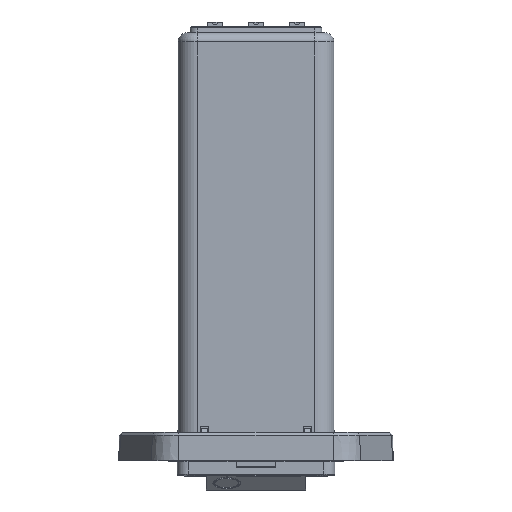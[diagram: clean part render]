
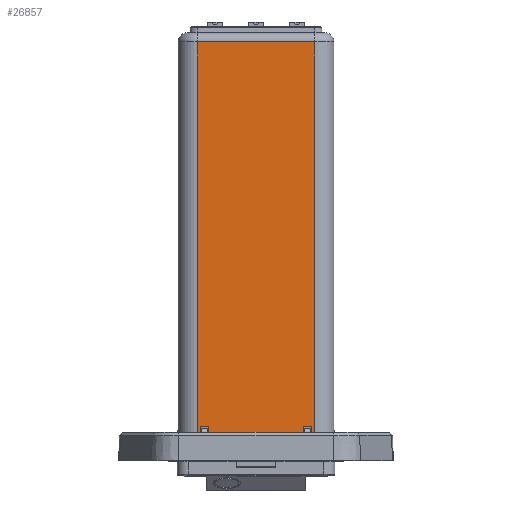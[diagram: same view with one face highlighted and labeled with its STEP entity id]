
A CAD part, top view. The second image highlights one B-rep face of the part: STEP entity #26857.
In plain terms, the highlighted planar face has unit normal (0, 0, 1).
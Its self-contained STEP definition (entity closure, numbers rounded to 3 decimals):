
#26699=CARTESIAN_POINT('',(10.7,76.3,23.1));
#26700=VERTEX_POINT('',#26699);
#26701=CARTESIAN_POINT('',(10.7,3.4,23.1));
#26702=VERTEX_POINT('',#26701);
#26703=CARTESIAN_POINT('',(10.7,76.3,23.1));
#26704=DIRECTION('',(0.0,-1.0,0.0));
#26705=VECTOR('',#26704,72.9);
#26706=LINE('',#26703,#26705);
#26707=EDGE_CURVE('',#26700,#26702,#26706,.T.);
#26727=CARTESIAN_POINT('',(10.7,53.,23.1));
#26728=DIRECTION('',(0.0,0.0,1.0));
#26729=DIRECTION('',(1.0,0.0,0.0));
#26730=AXIS2_PLACEMENT_3D('',#26727,#26728,#26729);
#26731=PLANE('',#26730);
#26732=CARTESIAN_POINT('',(-8.6,3.4,23.1));
#26733=VERTEX_POINT('',#26732);
#26734=CARTESIAN_POINT('',(-8.6,6.,23.1));
#26735=VERTEX_POINT('',#26734);
#26736=CARTESIAN_POINT('',(-8.6,3.4,23.1));
#26737=DIRECTION('',(0.0,1.0,0.0));
#26738=VECTOR('',#26737,2.6);
#26739=LINE('',#26736,#26738);
#26740=EDGE_CURVE('',#26733,#26735,#26739,.T.);
#26741=ORIENTED_EDGE('',*,*,#26740,.F.);
#26742=CARTESIAN_POINT('',(8.6,3.4,23.1));
#26743=VERTEX_POINT('',#26742);
#26744=CARTESIAN_POINT('',(-8.6,3.4,23.1));
#26745=DIRECTION('',(1.0,0.0,0.0));
#26746=VECTOR('',#26745,17.2);
#26747=LINE('',#26744,#26746);
#26748=EDGE_CURVE('',#26733,#26743,#26747,.T.);
#26749=ORIENTED_EDGE('',*,*,#26748,.T.);
#26750=CARTESIAN_POINT('',(8.6,6.,23.1));
#26751=VERTEX_POINT('',#26750);
#26752=CARTESIAN_POINT('',(8.6,6.,23.1));
#26753=DIRECTION('',(0.0,-1.0,0.0));
#26754=VECTOR('',#26753,2.6);
#26755=LINE('',#26752,#26754);
#26756=EDGE_CURVE('',#26751,#26743,#26755,.T.);
#26757=ORIENTED_EDGE('',*,*,#26756,.F.);
#26758=CARTESIAN_POINT('',(8.8,6.2,23.1));
#26759=VERTEX_POINT('',#26758);
#26760=CARTESIAN_POINT('',(8.8,6.,23.1));
#26761=DIRECTION('',(0.0,0.0,1.0));
#26762=DIRECTION('',(1.0,0.0,0.0));
#26763=AXIS2_PLACEMENT_3D('',#26760,#26761,#26762);
#26764=CIRCLE('',#26763,0.2);
#26765=EDGE_CURVE('',#26759,#26751,#26764,.T.);
#26766=ORIENTED_EDGE('',*,*,#26765,.F.);
#26767=CARTESIAN_POINT('',(10.,6.2,23.1));
#26768=VERTEX_POINT('',#26767);
#26769=CARTESIAN_POINT('',(8.8,6.2,23.1));
#26770=DIRECTION('',(1.0,0.0,0.0));
#26771=VECTOR('',#26770,1.2);
#26772=LINE('',#26769,#26771);
#26773=EDGE_CURVE('',#26759,#26768,#26772,.T.);
#26774=ORIENTED_EDGE('',*,*,#26773,.T.);
#26775=CARTESIAN_POINT('',(10.2,6.,23.1));
#26776=VERTEX_POINT('',#26775);
#26777=CARTESIAN_POINT('',(10.,6.,23.1));
#26778=DIRECTION('',(0.0,0.0,1.0));
#26779=DIRECTION('',(1.0,0.0,0.0));
#26780=AXIS2_PLACEMENT_3D('',#26777,#26778,#26779);
#26781=CIRCLE('',#26780,0.2);
#26782=EDGE_CURVE('',#26776,#26768,#26781,.T.);
#26783=ORIENTED_EDGE('',*,*,#26782,.F.);
#26784=CARTESIAN_POINT('',(10.2,3.4,23.1));
#26785=VERTEX_POINT('',#26784);
#26786=CARTESIAN_POINT('',(10.2,3.4,23.1));
#26787=DIRECTION('',(0.0,1.0,0.0));
#26788=VECTOR('',#26787,2.6);
#26789=LINE('',#26786,#26788);
#26790=EDGE_CURVE('',#26785,#26776,#26789,.T.);
#26791=ORIENTED_EDGE('',*,*,#26790,.F.);
#26792=CARTESIAN_POINT('',(10.2,3.4,23.1));
#26793=DIRECTION('',(1.0,0.0,0.0));
#26794=VECTOR('',#26793,0.5);
#26795=LINE('',#26792,#26794);
#26796=EDGE_CURVE('',#26785,#26702,#26795,.T.);
#26797=ORIENTED_EDGE('',*,*,#26796,.T.);
#26798=ORIENTED_EDGE('',*,*,#26707,.F.);
#26799=CARTESIAN_POINT('',(-10.7,76.3,23.1));
#26800=VERTEX_POINT('',#26799);
#26801=CARTESIAN_POINT('',(10.7,76.3,23.1));
#26802=DIRECTION('',(-1.0,0.0,0.0));
#26803=VECTOR('',#26802,21.4);
#26804=LINE('',#26801,#26803);
#26805=EDGE_CURVE('',#26700,#26800,#26804,.T.);
#26806=ORIENTED_EDGE('',*,*,#26805,.T.);
#26807=CARTESIAN_POINT('',(-10.7,3.4,23.1));
#26808=VERTEX_POINT('',#26807);
#26809=CARTESIAN_POINT('',(-10.7,76.3,23.1));
#26810=DIRECTION('',(0.0,-1.0,0.0));
#26811=VECTOR('',#26810,72.9);
#26812=LINE('',#26809,#26811);
#26813=EDGE_CURVE('',#26800,#26808,#26812,.T.);
#26814=ORIENTED_EDGE('',*,*,#26813,.T.);
#26815=CARTESIAN_POINT('',(-10.2,3.4,23.1));
#26816=VERTEX_POINT('',#26815);
#26817=CARTESIAN_POINT('',(-10.7,3.4,23.1));
#26818=DIRECTION('',(1.0,0.0,0.0));
#26819=VECTOR('',#26818,0.5);
#26820=LINE('',#26817,#26819);
#26821=EDGE_CURVE('',#26808,#26816,#26820,.T.);
#26822=ORIENTED_EDGE('',*,*,#26821,.T.);
#26823=CARTESIAN_POINT('',(-10.2,6.,23.1));
#26824=VERTEX_POINT('',#26823);
#26825=CARTESIAN_POINT('',(-10.2,6.,23.1));
#26826=DIRECTION('',(0.0,-1.0,0.0));
#26827=VECTOR('',#26826,2.6);
#26828=LINE('',#26825,#26827);
#26829=EDGE_CURVE('',#26824,#26816,#26828,.T.);
#26830=ORIENTED_EDGE('',*,*,#26829,.F.);
#26831=CARTESIAN_POINT('',(-10.,6.2,23.1));
#26832=VERTEX_POINT('',#26831);
#26833=CARTESIAN_POINT('',(-10.,6.,23.1));
#26834=DIRECTION('',(0.0,0.0,1.0));
#26835=DIRECTION('',(1.0,0.0,0.0));
#26836=AXIS2_PLACEMENT_3D('',#26833,#26834,#26835);
#26837=CIRCLE('',#26836,0.2);
#26838=EDGE_CURVE('',#26832,#26824,#26837,.T.);
#26839=ORIENTED_EDGE('',*,*,#26838,.F.);
#26840=CARTESIAN_POINT('',(-8.8,6.2,23.1));
#26841=VERTEX_POINT('',#26840);
#26842=CARTESIAN_POINT('',(-10.,6.2,23.1));
#26843=DIRECTION('',(1.0,0.0,0.0));
#26844=VECTOR('',#26843,1.2);
#26845=LINE('',#26842,#26844);
#26846=EDGE_CURVE('',#26832,#26841,#26845,.T.);
#26847=ORIENTED_EDGE('',*,*,#26846,.T.);
#26848=CARTESIAN_POINT('',(-8.8,6.,23.1));
#26849=DIRECTION('',(0.0,0.0,1.0));
#26850=DIRECTION('',(1.0,0.0,0.0));
#26851=AXIS2_PLACEMENT_3D('',#26848,#26849,#26850);
#26852=CIRCLE('',#26851,0.2);
#26853=EDGE_CURVE('',#26735,#26841,#26852,.T.);
#26854=ORIENTED_EDGE('',*,*,#26853,.F.);
#26855=EDGE_LOOP('',(#26741,#26749,#26757,#26766,#26774,#26783,#26791,#26797,#26798,#26806,#26814,#26822,#26830,#26839,#26847,#26854));
#26856=FACE_OUTER_BOUND('',#26855,.T.);
#26857=ADVANCED_FACE('',(#26856),#26731,.T.);
